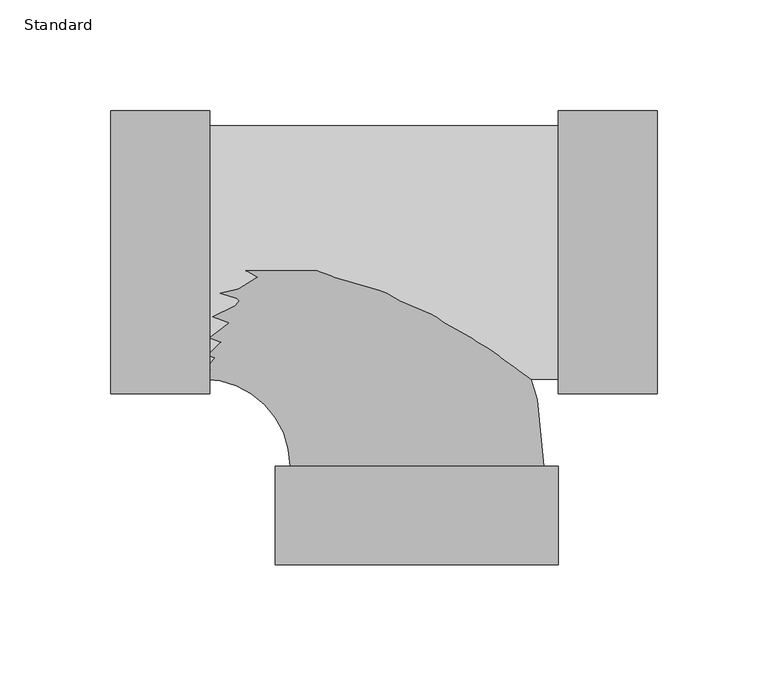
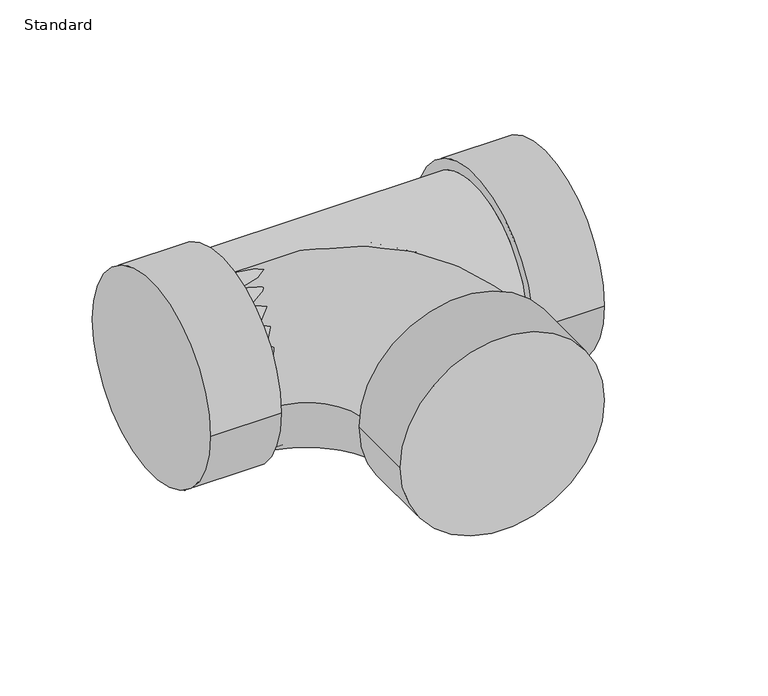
"""IFC4 building model written with IfcOpenShell, lengths in millimetres: pipe fitting geometry, EG-RCAN Té sanitaire de réduction - PVC - Nom. 40 - DWV : Standard."""

from ifc_helpers import new_model, si_unit, point, frame, origin, place, context, project, spatial, circle_curve, ellipse_curve, trimmed, source, transform, mapped, element, save
from ifc_brep_helpers import plane_surface, cylinder_surface, revolved_surface, advanced_brep


def standard_3e3143c2(model_context):
    return source(origin(), model_context, "Body", "AdvancedBrep", [
        advanced_brep(
        [(63.7520629, -63.754, 0.0), (63.7520629, 63.754, 0.0), (63.7520629, -57.15, 0.0), (63.7520629, 57.15, 0.0), (108.2020629, -63.754, 0.0), (108.2020629, 63.754, 0.0), (-93.4599062, 57.15, 0.0), (-93.4599062, -57.15, 0.0), (-137.9099062, -63.754, 0.0), (-137.9099062, 63.754, 0.0), (-93.4599062, -63.754, 0.0), (-93.4599062, 63.754, 0.0)],
        [
            (0, 1, circle_curve(frame((63.7520629, 0.0, 0.0), z_axis=(-1.0, 0.0, 0.0), x_axis=(0.0, 1.0, 0.0)), 63.754)),
            (1, 0, circle_curve(frame((63.7520629, 0.0, 0.0), z_axis=(-1.0, 0.0, 0.0), x_axis=(0.0, 1.0, 0.0)), 63.754)),
            (2, 3, circle_curve(frame((63.7520629, 0.0, 0.0), z_axis=(1.0, 0.0, 0.0), x_axis=(0.0, 0.0, -1.0)), 57.15)),
            (3, 2, circle_curve(frame((63.7520629, 0.0, 0.0), z_axis=(1.0, 0.0, 0.0), x_axis=(0.0, 0.0, 1.0)), 57.15)),
            (4, 5, circle_curve(frame((108.2020629, 0.0, 0.0), z_axis=(1.0, 0.0, 0.0), x_axis=(0.0, 1.0, 0.0)), 63.754)),
            (5, 4, circle_curve(frame((108.2020629, 0.0, 0.0), z_axis=(1.0, 0.0, 0.0), x_axis=(0.0, 1.0, 0.0)), 63.754)),
            (0, 4),
            (5, 1),
            (6, 3),
            (2, 7),
            (7, 6, circle_curve(frame((-93.4599062, 0.0, 0.0), z_axis=(1.0, 0.0, 0.0), x_axis=(0.0, 0.0, -1.0)), 57.15)),
            (6, 7, circle_curve(frame((-93.4599062, 0.0, 0.0), z_axis=(1.0, 0.0, 0.0), x_axis=(0.0, 0.0, 1.0)), 57.15)),
            (8, 9, circle_curve(frame((-137.9099062, 0.0, 0.0), z_axis=(-1.0, 0.0, 0.0), x_axis=(0.0, 1.0, 0.0)), 63.754)),
            (9, 8, circle_curve(frame((-137.9099062, 0.0, 0.0), z_axis=(-1.0, 0.0, 0.0), x_axis=(0.0, 1.0, 0.0)), 63.754)),
            (10, 11, circle_curve(frame((-93.4599062, 0.0, 0.0), z_axis=(1.0, 0.0, 0.0), x_axis=(0.0, 1.0, 0.0)), 63.754)),
            (11, 10, circle_curve(frame((-93.4599062, 0.0, 0.0), z_axis=(1.0, 0.0, 0.0), x_axis=(0.0, 1.0, 0.0)), 63.754)),
            (8, 10),
            (11, 9),
        ],
        [
            plane_surface(frame((63.7520629, 0.0, 0.0), z_axis=(-1.0, 0.0, 0.0), x_axis=(0.0, 0.0, 1.0))),
            plane_surface(frame((108.2020629, 0.0, 0.0), z_axis=(1.0, 0.0, 0.0), x_axis=(0.0, 0.0, 1.0))),
            cylinder_surface(frame((63.7520629, 0.0, 0.0), z_axis=(-1.0, 0.0, 0.0), x_axis=(0.0, 1.0, 0.0)), 63.754),
            cylinder_surface(frame((-93.4599062, 0.0, 0.0), z_axis=(1.0, 0.0, 0.0), x_axis=(0.0, 0.0, -1.0)), 57.15),
            cylinder_surface(frame((-93.4599062, 0.0, 0.0), z_axis=(1.0, 0.0, 0.0), x_axis=(0.0, 0.0, 1.0)), 57.15),
            plane_surface(frame((-137.9099062, 0.0, 0.0), z_axis=(-1.0, 0.0, 0.0), x_axis=(0.0, 0.0, 1.0))),
            plane_surface(frame((-93.4599062, 0.0, 0.0), z_axis=(1.0, 0.0, 0.0), x_axis=(0.0, 0.0, 1.0))),
            cylinder_surface(frame((-137.9099062, 0.0, 0.0), z_axis=(-1.0, 0.0, 0.0), x_axis=(0.0, 1.0, 0.0)), 63.754),
        ],
        [
            (0, [[1, 2], [3, 4]]),
            (1, [[5, 6]]),
            (2, [[-1, 7, -6, 8]]),
            (2, [[-2, -8, -5, -7]]),
            (3, [[9, -3, 10, 11]]),
            (4, [[-9, 12, -10, -4]]),
            (5, [[13, 14]]),
            (6, [[15, 16], [-11, -12]]),
            (7, [[-13, 17, -16, 18]]),
            (7, [[-14, -18, -15, -17]]),
        ],
    ),
        advanced_brep(
        [(-63.7559371, -96.3463744, 0.0), (63.7520629, -96.348938, 0.0), (57.1480629, -96.3488052, 0.0), (-57.1519371, -96.3465072, 0.0), (-63.7568308, -140.7963744, 0.0), (63.7511692, -140.798938, 0.0), (-96.3476562, -57.15, 0.0), (-96.3476562, 57.15, 0.0)],
        [
            (0, 1, circle_curve(frame((-0.0019371, -96.3476562, 0.0), z_axis=(2.0105281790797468e-05, 0.9999999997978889, 0.0), x_axis=(0.9999999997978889, -2.0105281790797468e-05, 0.0)), 63.754)),
            (1, 0, circle_curve(frame((-0.0019371, -96.3476562, 0.0), z_axis=(2.0105281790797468e-05, 0.9999999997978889, 0.0), x_axis=(0.9999999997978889, -2.0105281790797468e-05, 0.0)), 63.754)),
            (2, 3, circle_curve(frame((-0.0019371, -96.3476562, 0.0), z_axis=(-2.0105281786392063e-05, -0.9999999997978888, 0.0), x_axis=(0.999999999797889, -2.010528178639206e-05, 0.0)), 57.15)),
            (3, 2, circle_curve(frame((-0.0019371, -96.3476562, 0.0), z_axis=(-2.0105281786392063e-05, -0.9999999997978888, 0.0), x_axis=(0.999999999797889, -2.010528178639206e-05, 0.0)), 57.15)),
            (4, 5, circle_curve(frame((-0.0028308, -140.7976562, 0.0), z_axis=(-2.0105281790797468e-05, -0.9999999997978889, 0.0), x_axis=(0.9999999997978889, -2.0105281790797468e-05, 0.0)), 63.754)),
            (5, 4, circle_curve(frame((-0.0028308, -140.7976562, 0.0), z_axis=(-2.0105281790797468e-05, -0.9999999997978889, 0.0), x_axis=(0.9999999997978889, -2.0105281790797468e-05, 0.0)), 63.754)),
            (0, 4),
            (5, 1),
            (6, 7, circle_curve(frame((-96.3476562, 0.0, 0.0), z_axis=(-1.0000000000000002, 0.0, 0.0), x_axis=(0.0, 1.0, 0.0)), 57.15)),
            (7, 6, circle_curve(frame((-96.3476562, 0.0, 0.0), z_axis=(-1.0000000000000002, 0.0, 0.0), x_axis=(0.0, 1.0, 0.0)), 57.15)),
            (6, 3, circle_curve(frame((-96.3476562, -96.3457192, 0.0), z_axis=(0.0, 0.0, -1.0), x_axis=(0.0, 1.0, 0.0)), 39.1957192)),
            (2, 7, circle_curve(frame((-96.3476562, -96.3457192, 0.0), z_axis=(0.0, 0.0, 1.0), x_axis=(0.0, 1.0, 0.0)), 153.4957192)),
        ],
        [
            plane_surface(frame((-0.0019371, -96.3476562, 0.0), z_axis=(2.0105281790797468e-05, 0.9999999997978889, 0.0), x_axis=(0.0, 0.0, 1.0))),
            plane_surface(frame((-0.0028308, -140.7976562, 0.0), z_axis=(-2.0105281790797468e-05, -0.9999999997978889, 0.0), x_axis=(0.0, 0.0, 1.0))),
            cylinder_surface(frame((-0.0019371, -96.3476562, 0.0), z_axis=(2.0105281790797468e-05, 0.9999999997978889, 0.0), x_axis=(0.9999999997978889, -2.0105281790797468e-05, 0.0)), 63.754),
            plane_surface(frame((-96.3476562, 0.0, 0.0), z_axis=(-1.0, 0.0, 0.0), x_axis=(0.0, 0.0, 1.0))),
            revolved_surface(trimmed(ellipse_curve(frame((-96.3476562, 0.0, 0.0), z_axis=(-1.0000000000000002, 0.0, 0.0), x_axis=(0.0, 1.0, 0.0)), 57.15, 57.15), [point((-96.3476562, -57.15, 0.0))], [point((-96.3476562, 57.15, 0.0))], True, "CARTESIAN"), (-96.3476562, -96.3457192, 0.0), (0.0, 0.0, -1.0000000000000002)),
            revolved_surface(trimmed(ellipse_curve(frame((-96.3476562, 0.0, 0.0), z_axis=(-1.0000000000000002, 0.0, 0.0), x_axis=(0.0, 1.0, 0.0)), 57.15, 57.15), [point((-96.3476562, 57.15, 0.0))], [point((-96.3476562, -57.15, 0.0))], True, "CARTESIAN"), (-96.3476562, -96.3457192, 0.0), (0.0, 0.0, -1.0000000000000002)),
        ],
        [
            (0, [[1, 2], [3, 4]]),
            (1, [[5, 6]]),
            (2, [[-1, 7, -6, 8]]),
            (2, [[-2, -8, -5, -7]]),
            (3, [[9, 10]]),
            (4, [[-9, 11, -3, 12]]),
            (5, [[-10, -12, -4, -11]]),
        ],
    ),
    ])


if __name__ == "__main__":
    model = new_model("IFC4")
    model_context = context("Model", 3, world=origin())
    ifc_project = project(units=[si_unit("LENGTHUNIT", "METRE", prefix="MILLI")], contexts=[model_context])
    site = spatial("IfcSite", under=ifc_project)
    building = spatial("IfcBuilding", under=site)
    placement = place(None, origin())
    standard_shape = standard_3e3143c2(model_context)
    element("IfcPipeFitting", 1, ObjectType="EG-RCAN Té sanitaire de réduction - PVC - Nom. 40 - DWV : Standard", at=placement, inside=building, context=model_context, shape_type="MappedRepresentation", body=[
        mapped(standard_shape, transform((0.0, 0.0, 0.0), x_axis=(1.0, 0.0, 0.0), y_axis=(0.0, 1.0, 0.0), z_axis=(0.0, 0.0, 1.0))),
    ])
    save(model, "model.ifc")
